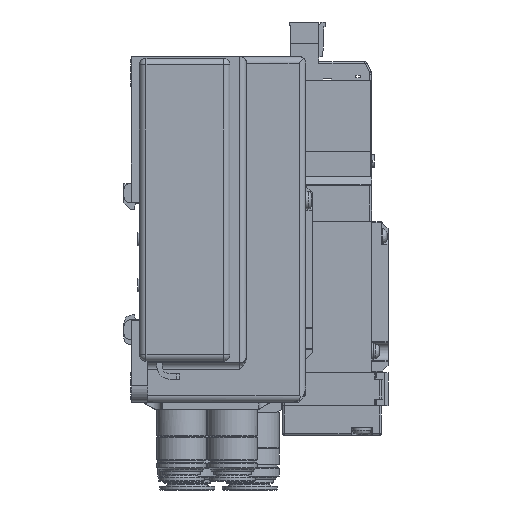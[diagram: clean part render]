
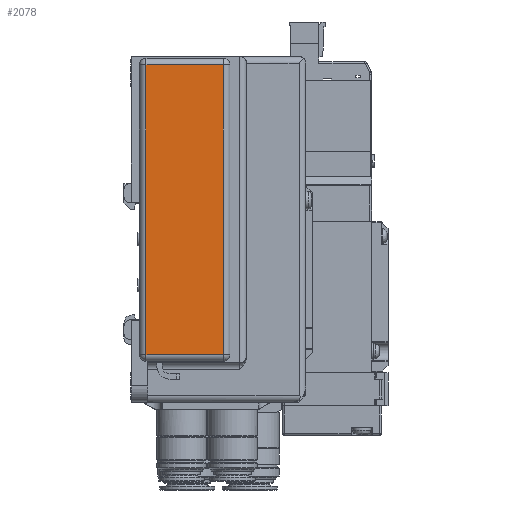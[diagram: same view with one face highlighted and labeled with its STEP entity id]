
A CAD part, left-side view. The second image highlights one B-rep face of the part: STEP entity #2078.
In plain terms, the highlighted planar face has unit normal (-1, 0, 0).
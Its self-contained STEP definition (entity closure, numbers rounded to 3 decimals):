
#2078=ADVANCED_FACE('',(#20598),#20597,.T.);
#20597=PLANE('',#46249);
#20598=FACE_OUTER_BOUND('',#46250,.T.);
#46246=CARTESIAN_POINT('',(-3.,-35.35,-37.1));
#46247=DIRECTION('',(-1.,0.,0.));
#46248=DIRECTION('',(0.,0.,1.));
#46249=AXIS2_PLACEMENT_3D('',#46246,#46247,#46248);
#46250=EDGE_LOOP('',(#67698,#67699,#67700,#67701));
#67698=ORIENTED_EDGE('',*,*,#81108,.T.);
#67699=ORIENTED_EDGE('',*,*,#81109,.T.);
#67700=ORIENTED_EDGE('',*,*,#81110,.T.);
#67701=ORIENTED_EDGE('',*,*,#81111,.T.);
#81108=EDGE_CURVE('',#115631,#115632,#115633,.T.);
#81109=EDGE_CURVE('',#115632,#115522,#115639,.T.);
#81110=EDGE_CURVE('',#115522,#115645,#115646,.T.);
#81111=EDGE_CURVE('',#115645,#115631,#115652,.T.);
#115522=VERTEX_POINT('',#162415);
#115631=VERTEX_POINT('',#162478);
#115632=VERTEX_POINT('',#162479);
#115633=LINE('',#162480,#162481);
#115639=LINE('',#162483,#162484);
#115645=VERTEX_POINT('',#162486);
#115646=LINE('',#162487,#162488);
#115652=LINE('',#162490,#162491);
#162415=CARTESIAN_POINT('',(-3.,-33.,-28.3));
#162478=CARTESIAN_POINT('',(-3.,-9.5,59.7));
#162479=CARTESIAN_POINT('',(-3.,-9.5,-28.3));
#162480=CARTESIAN_POINT('',(-3.,-9.5,59.7));
#162481=VECTOR('',#162482,88.);
#162482=DIRECTION('',(0.,0.,-1.));
#162483=CARTESIAN_POINT('',(-3.,-9.5,-28.3));
#162484=VECTOR('',#162485,23.5);
#162485=DIRECTION('',(0.,-1.,0.));
#162486=CARTESIAN_POINT('',(-3.,-33.,59.7));
#162487=CARTESIAN_POINT('',(-3.,-33.,-28.3));
#162488=VECTOR('',#162489,88.);
#162489=DIRECTION('',(0.,0.,1.));
#162490=CARTESIAN_POINT('',(-3.,-33.,59.7));
#162491=VECTOR('',#162492,23.5);
#162492=DIRECTION('',(0.,1.,0.));
